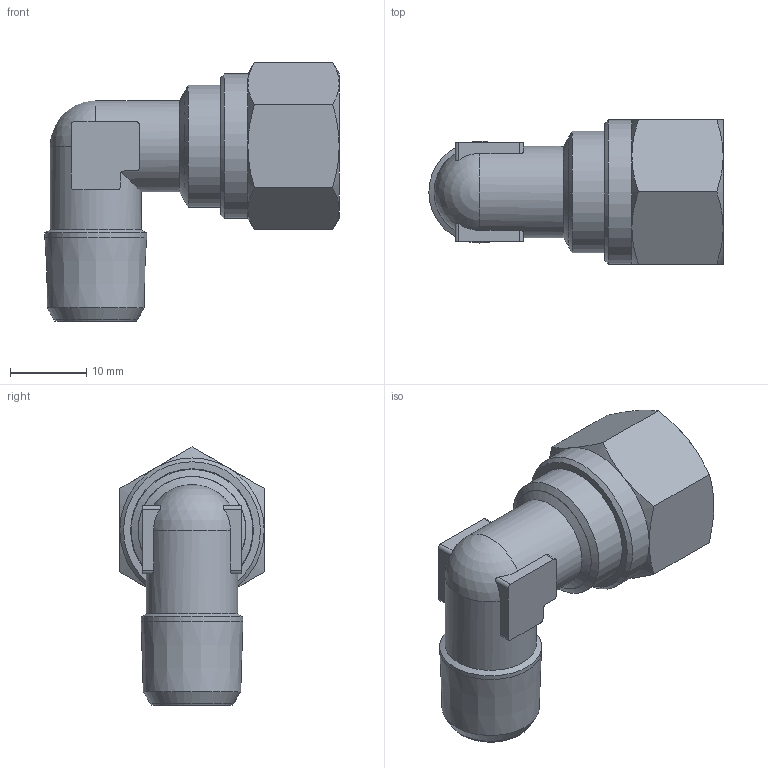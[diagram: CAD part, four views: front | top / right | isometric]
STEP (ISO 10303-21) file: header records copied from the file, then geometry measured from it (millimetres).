
FILE_DESCRIPTION(('Bauteilbeschreibung','HiCAD-Model','HiCAD-STEP-TRANSLATION','Bauteilbeschreibung'),'2;1');
FILE_NAME('B:/ABGLEICH/ZEICHNUNGEN/STEP FÜR INTERNET/STEP/205/92807_205_10_1-4.STP','2011-11-24T16:10:10+00:00',('Konstrukteur'),('Konstrukteur Firma GmbH'),' HiCAD neXt 2008, Step 3.1.1401.2J ','HiCAD neXt 2008','confidential');
FILE_SCHEMA(('AUTOMOTIVE_DESIGN { 1 2 10303 214 0 1 1 1 }'));
Length unit declared in the file: millimetre
Products named in the file (8): A2807_205_10_1_4; A2806; A28060; R 1_4; DIN 13_M16X1_5; A6804; A68040; DIN0130M16X105
Assembly tree (7 placements, depth 3):
  A2807_205_10_1_4
    A2806
    A28060
      R 1_4
      DIN 13_M16X1_5
    A6804
    A68040
      DIN0130M16X105
Bounding box: 38.69 x 19 x 33.97 mm (x, y, z)
Volume: 6192.3 mm3; surface area: 8105.1 mm2
Topology: 5 solids, 5 shells, 95 faces, 239 edges, 152 vertices
Faces by surface type: cone 34, cylinder 31, plane 29, sphere 1
Full cylindrical faces by diameter (mm): 8 x2, 10 x2, 12 x2, 13.388 x1, 14.16 x4, 16 x3, 19 x1
Entity records: 7413 total; most frequent: CARTESIAN_POINT 4439, DIRECTION 432, ORIENTED_EDGE 368, AXIS2_PLACEMENT_3D 191, EDGE_CURVE 184, COLOUR_RGB 163, PRESENTATION_STYLE_ASSIGNMENT 163, CURVE_STYLE 158
